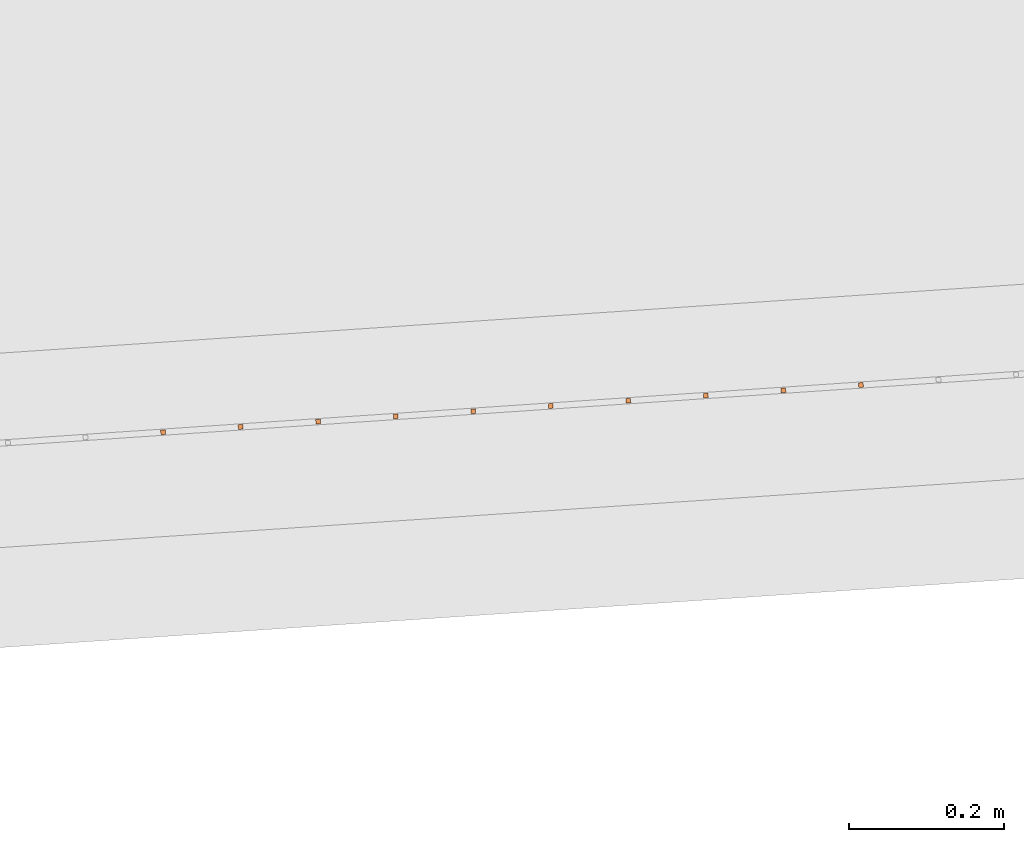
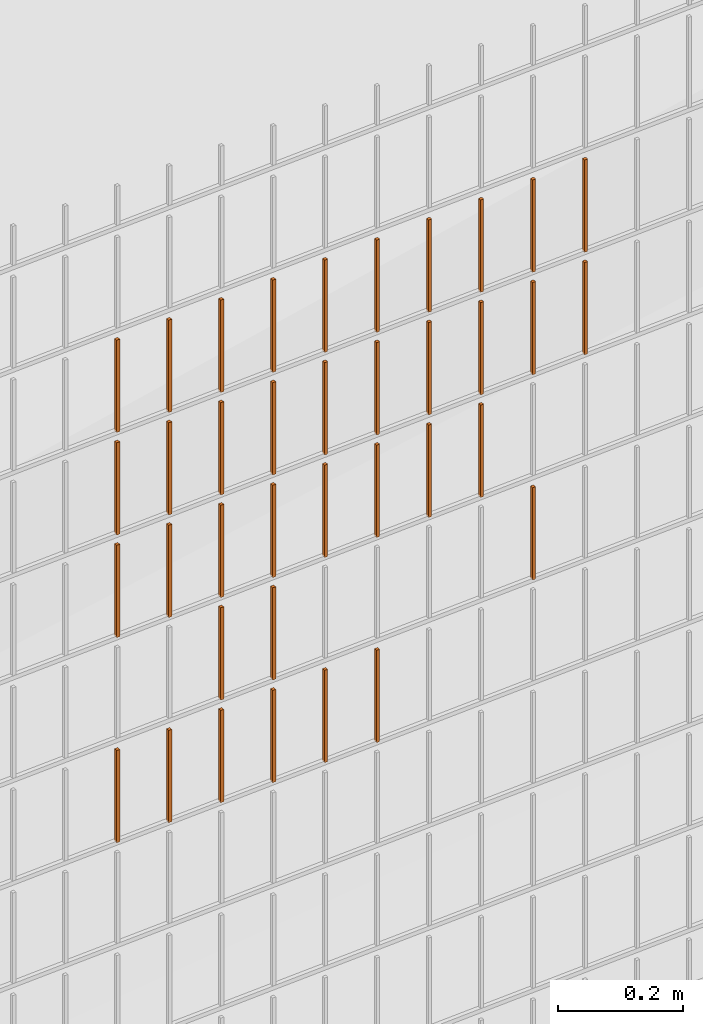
# One storey, part 101 of 1809: 37 proxies, 1 element without a shape of its own.
"""IFC2X3 building model written with IfcOpenShell, lengths in millimetres."""

from ifc_helpers import new_model, entity, si_unit, converted_unit, derived_unit, money_unit, direction, frame, origin_with_axes, place, context, subcontext, project, spatial, faceted_brep, source, transform, mapped, material, type_object, element, aggregate, save


model = new_model("IFC2X3")

# Units and contexts
model_context = context("Model", 3, precision=0.01, world=origin_with_axes(), true_north=direction((0.0, 1.0)))
body_context = subcontext(model_context, "Body", "Model", "MODEL_VIEW")
ifc_project = project(units=[si_unit("LENGTHUNIT", "METRE", prefix="MILLI"), si_unit("AREAUNIT", "SQUARE_METRE"), si_unit("VOLUMEUNIT", "CUBIC_METRE"), converted_unit("PLANEANGLEUNIT", "DEGREE", entity("IfcPlaneAngleMeasure", 0.0174532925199), si_unit("PLANEANGLEUNIT", "RADIAN"), dimensions=[0, 0, 0, 0, 0, 0, 0]), si_unit("SOLIDANGLEUNIT", "STERADIAN"), money_unit("EUR"), converted_unit("TIMEUNIT", "Year", entity("IfcTimeMeasure", 31556926.0), si_unit("TIMEUNIT", "SECOND"), dimensions=[0, 0, 1, 0, 0, 0, 0]), si_unit("MASSUNIT", "GRAM", prefix="KILO"), si_unit("THERMODYNAMICTEMPERATUREUNIT", "DEGREE_CELSIUS"), si_unit("LUMINOUSINTENSITYUNIT", "LUMEN"), si_unit("ENERGYUNIT", "JOULE", prefix="MEGA"), derived_unit("THERMALCONDUCTANCEUNIT", [(si_unit("POWERUNIT", "WATT"), 1), (si_unit("LENGTHUNIT", "METRE"), -1), (si_unit("THERMODYNAMICTEMPERATUREUNIT", "KELVIN"), -1)]), derived_unit("SPECIFICHEATCAPACITYUNIT", [(si_unit("ENERGYUNIT", "JOULE"), 1), (si_unit("MASSUNIT", "GRAM", prefix="KILO"), -1), (si_unit("THERMODYNAMICTEMPERATUREUNIT", "KELVIN"), -1)]), derived_unit("MASSDENSITYUNIT", [(si_unit("MASSUNIT", "GRAM", prefix="KILO"), 1), (si_unit("VOLUMEUNIT", "CUBIC_METRE"), -1)])], contexts=[model_context])

# Site, building, storey
site_placement = place(None, origin_with_axes())
site = spatial("IfcSite", under=ifc_project, at=site_placement, Name="Politse- ja Piirivalveameti ning Päästeameti ühishoone", CompositionType="ELEMENT")
building_placement = place(site_placement, origin_with_axes())
building = spatial("IfcBuilding", under=site, at=building_placement, Name="Politse- ja Piirivalveameti ning Päästeameti ühishoone", CompositionType="ELEMENT")
storey_placement = place(building_placement, origin_with_axes())
storey = spatial("IfcBuildingStorey", under=building, at=storey_placement, Name="Esimene korrus", CompositionType="ELEMENT", Elevation=0.0)

# Proxies
building_element_proxy_type_1 = type_object("IfcBuildingElementProxyType", Name="Railing Type", PredefinedType="NOTDEFINED")
proxy_1_placement = place(storey_placement, frame((89252.001212, -29183.4766571, 203.661247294), z_axis=(0.0, 0.0, 1.0), x_axis=(1.0, 0.0, 0.0)))
proxy_1 = element("IfcBuildingElementProxy", 1, at=proxy_1_placement, inside=storey, type_object=building_element_proxy_type_1, Name="PIIRDEAED")
ifc_material = material(Name="ET-03_Raud")
building_element_proxy_type_2 = type_object("IfcBuildingElementProxyType", Name="IfcBuildingElementProxy", PredefinedType="NOTDEFINED")
shared_shape_1 = source(origin_with_axes(), body_context, "Body", "Brep", [
    faceted_brep([(3.0, 3.0, -0.000752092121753), (-3.0, 3.0, -0.000752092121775), (-3.0, 3.0, 179.99926046), (3.0, 3.0, 179.99926046), (3.0, -3.0, 0.000752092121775), (-3.0, -3.0, 0.000752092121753), (-3.0, -3.0, 180.000764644), (3.0, -3.0, 180.000764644)], [[[0, 1, 2, 3]], [[0, 4, 5, 1]], [[1, 5, 6, 2]], [[3, 2, 6, 7]], [[4, 0, 3, 7]], [[5, 4, 7, 6]]]),
])
proxy_2_placement = place(proxy_1_placement, frame((-95708.6015445, -23762.5296047, 1203.18581675), z_axis=(0.0, 0.0, 1.0), x_axis=(1.0, 0.0, 0.0)))
proxy_2 = element("IfcBuildingElementProxy", 2, at=proxy_2_placement, type_object=building_element_proxy_type_2, material=ifc_material, Name="BALUSTER - 001", context=body_context, shape_type="MappedRepresentation", body=[
    mapped(shared_shape_1, transform((0.0, 0.0, 0.0), x_axis=(-0.0673926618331, 0.997726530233, 0.0), y_axis=(-0.997726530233, -0.0673926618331, 0.0), z_axis=(0.0, 0.0, 1.0))),
])
shared_shape_2 = source(origin_with_axes(), body_context, "Body", "Brep", [
    faceted_brep([(3.0, 3.0, -0.000752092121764), (-3.0, 3.0, -0.000752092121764), (-3.0, 3.0, 179.99926046), (3.0, 3.0, 179.99926046), (3.0, -3.0, 0.000752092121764), (-3.0, -3.0, 0.000752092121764), (-3.0, -3.0, 180.000764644), (3.0, -3.0, 180.000764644)], [[[0, 1, 2, 3]], [[0, 4, 5, 1]], [[1, 5, 6, 2]], [[3, 2, 6, 7]], [[4, 0, 3, 7]], [[5, 4, 7, 6]]]),
])
proxy_3_placement = place(proxy_1_placement, frame((-95509.0562385, -23749.0510723, 1203.23595622), z_axis=(0.0, 0.0, 1.0), x_axis=(1.0, 0.0, 0.0)))
proxy_3 = element("IfcBuildingElementProxy", 3, at=proxy_3_placement, type_object=building_element_proxy_type_2, material=ifc_material, Name="BALUSTER - 001", context=body_context, shape_type="MappedRepresentation", body=[
    mapped(shared_shape_2, transform((0.0, 0.0, 0.0), x_axis=(-0.0673926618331, 0.997726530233, 0.0), y_axis=(-0.997726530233, -0.0673926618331, 0.0), z_axis=(0.0, 0.0, 1.0))),
])
shared_shape_3 = source(origin_with_axes(), body_context, "Body", "Brep", [
    faceted_brep([(3.0, 3.0, -0.000752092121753), (-3.0, 3.0, -0.000752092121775), (-3.0, 3.0, 179.99926046), (3.0, 3.0, 179.99926046), (3.0, -3.0, 0.000752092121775), (-3.0, -3.0, 0.000752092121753), (-3.0, -3.0, 180.000764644), (3.0, -3.0, 180.000764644)], [[[0, 1, 2, 3]], [[0, 4, 5, 1]], [[1, 5, 6, 2]], [[3, 2, 6, 7]], [[4, 0, 3, 7]], [[5, 4, 7, 6]]]),
])
proxy_4_placement = place(proxy_1_placement, frame((-95708.6015445, -23762.5296047, 1403.18581675), z_axis=(0.0, 0.0, 1.0), x_axis=(1.0, 0.0, 0.0)))
proxy_4 = element("IfcBuildingElementProxy", 4, at=proxy_4_placement, type_object=building_element_proxy_type_2, material=ifc_material, Name="BALUSTER - 001", context=body_context, shape_type="MappedRepresentation", body=[
    mapped(shared_shape_3, transform((0.0, 0.0, 0.0), x_axis=(-0.0673926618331, 0.997726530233, 0.0), y_axis=(-0.997726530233, -0.0673926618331, 0.0), z_axis=(0.0, 0.0, 1.0))),
])
proxy_5_placement = place(proxy_1_placement, frame((-95708.6015445, -23762.5296047, 1603.18581675), z_axis=(0.0, 0.0, 1.0), x_axis=(1.0, 0.0, 0.0)))
proxy_5 = element("IfcBuildingElementProxy", 5, at=proxy_5_placement, type_object=building_element_proxy_type_2, material=ifc_material, Name="BALUSTER - 001", context=body_context, shape_type="MappedRepresentation", body=[
    mapped(shared_shape_3, transform((0.0, 0.0, 0.0), x_axis=(-0.0673926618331, 0.997726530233, 0.0), y_axis=(-0.997726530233, -0.0673926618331, 0.0), z_axis=(0.0, 0.0, 1.0))),
])
shared_shape_4 = source(origin_with_axes(), body_context, "Body", "Brep", [
    faceted_brep([(3.0, 3.0, -0.000752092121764), (-3.0, 3.0, -0.000752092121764), (-3.0, 3.0, 179.99926046), (3.0, 3.0, 179.99926046), (3.0, -3.0, 0.000752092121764), (-3.0, -3.0, 0.000752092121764), (-3.0, -3.0, 180.000764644), (3.0, -3.0, 180.000764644)], [[[0, 1, 2, 3]], [[0, 4, 5, 1]], [[1, 5, 6, 2]], [[3, 2, 6, 7]], [[4, 0, 3, 7]], [[5, 4, 7, 6]]]),
])
proxy_6_placement = place(proxy_1_placement, frame((-95509.0562385, -23749.0510723, 1403.23595622), z_axis=(0.0, 0.0, 1.0), x_axis=(1.0, 0.0, 0.0)))
proxy_6 = element("IfcBuildingElementProxy", 6, at=proxy_6_placement, type_object=building_element_proxy_type_2, material=ifc_material, Name="BALUSTER - 001", context=body_context, shape_type="MappedRepresentation", body=[
    mapped(shared_shape_4, transform((0.0, 0.0, 0.0), x_axis=(-0.0673926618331, 0.997726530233, 0.0), y_axis=(-0.997726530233, -0.0673926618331, 0.0), z_axis=(0.0, 0.0, 1.0))),
])
proxy_7_placement = place(proxy_1_placement, frame((-95509.0562385, -23749.0510723, 1603.23595622), z_axis=(0.0, 0.0, 1.0), x_axis=(1.0, 0.0, 0.0)))
proxy_7 = element("IfcBuildingElementProxy", 7, at=proxy_7_placement, type_object=building_element_proxy_type_2, material=ifc_material, Name="BALUSTER - 001", context=body_context, shape_type="MappedRepresentation", body=[
    mapped(shared_shape_4, transform((0.0, 0.0, 0.0), x_axis=(-0.0673926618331, 0.997726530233, 0.0), y_axis=(-0.997726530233, -0.0673926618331, 0.0), z_axis=(0.0, 0.0, 1.0))),
])
shared_shape_5 = source(origin_with_axes(), body_context, "Body", "Brep", [
    faceted_brep([(3.0, 3.0, -0.000752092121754), (-3.0, 3.0, -0.000752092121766), (-3.00000000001, 3.00000000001, 179.99926046), (2.99999999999, 3.00000000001, 179.99926046), (3.0, -3.0, 0.000752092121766), (-3.0, -3.0, 0.000752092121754), (-3.00000000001, -2.99999999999, 180.000764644), (2.99999999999, -2.99999999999, 180.000764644)], [[[0, 1, 2, 3]], [[0, 4, 5, 1]], [[1, 5, 6, 2]], [[3, 2, 6, 7]], [[4, 0, 3, 7]], [[5, 4, 7, 6]]]),
])
proxy_8_placement = place(proxy_1_placement, frame((-95808.3741976, -23769.2688709, 1003.16074701), z_axis=(0.0, 0.0, 1.0), x_axis=(1.0, 0.0, 0.0)))
proxy_8 = element("IfcBuildingElementProxy", 8, at=proxy_8_placement, type_object=building_element_proxy_type_2, material=ifc_material, Name="BALUSTER - 001", context=body_context, shape_type="MappedRepresentation", body=[
    mapped(shared_shape_5, transform((0.0, 0.0, 0.0), x_axis=(-0.0673926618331, 0.997726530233, 0.0), y_axis=(-0.997726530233, -0.0673926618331, 0.0), z_axis=(0.0, 0.0, 1.0))),
])
shared_shape_6 = source(origin_with_axes(), body_context, "Body", "Brep", [
    faceted_brep([(3.0, 3.0, -0.000752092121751), (-3.0, 3.0, -0.000752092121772), (-3.0, 3.0, 179.99926046), (3.0, 3.0, 179.99926046), (3.0, -3.0, 0.000752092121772), (-3.0, -3.0, 0.000752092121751), (-3.0, -3.0, 180.000764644), (3.0, -3.0, 180.000764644)], [[[0, 1, 2, 3]], [[0, 4, 5, 1]], [[1, 5, 6, 2]], [[3, 2, 6, 7]], [[4, 0, 3, 7]], [[5, 4, 7, 6]]]),
])
proxy_9_placement = place(proxy_1_placement, frame((-95409.2835855, -23742.3118062, 1203.26102596), z_axis=(0.0, 0.0, 1.0), x_axis=(1.0, 0.0, 0.0)))
proxy_9 = element("IfcBuildingElementProxy", 9, at=proxy_9_placement, type_object=building_element_proxy_type_2, material=ifc_material, Name="BALUSTER - 001", context=body_context, shape_type="MappedRepresentation", body=[
    mapped(shared_shape_6, transform((0.0, 0.0, 0.0), x_axis=(-0.0673926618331, 0.997726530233, 0.0), y_axis=(-0.997726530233, -0.0673926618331, 0.0), z_axis=(0.0, 0.0, 1.0))),
])
shared_shape_7 = source(origin_with_axes(), body_context, "Body", "Brep", [
    faceted_brep([(3.0, 3.0, -0.000752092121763), (-3.0, 3.0, -0.000752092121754), (-3.00000000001, 3.0, 179.99926046), (2.99999999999, 3.0, 179.99926046), (3.0, -3.0, 0.000752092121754), (-3.0, -3.0, 0.000752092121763), (-3.00000000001, -3.0, 180.000764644), (2.99999999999, -3.0, 180.000764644)], [[[0, 1, 2, 3]], [[0, 4, 5, 1]], [[1, 5, 6, 2]], [[3, 2, 6, 7]], [[4, 0, 3, 7]], [[5, 4, 7, 6]]]),
])
proxy_10_placement = place(proxy_1_placement, frame((-95309.5109324, -23735.57254, 1003.2860957), z_axis=(0.0, 0.0, 1.0), x_axis=(1.0, 0.0, 0.0)))
proxy_10 = element("IfcBuildingElementProxy", 10, at=proxy_10_placement, type_object=building_element_proxy_type_2, material=ifc_material, Name="BALUSTER - 001", context=body_context, shape_type="MappedRepresentation", body=[
    mapped(shared_shape_7, transform((0.0, 0.0, 0.0), x_axis=(-0.0673926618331, 0.997726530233, 0.0), y_axis=(-0.997726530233, -0.0673926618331, 0.0), z_axis=(0.0, 0.0, 1.0))),
])
proxy_11_placement = place(proxy_1_placement, frame((-95908.1468506, -23776.0081371, 1003.13567727), z_axis=(0.0, 0.0, 1.0), x_axis=(1.0, 0.0, 0.0)))
proxy_11 = element("IfcBuildingElementProxy", 11, at=proxy_11_placement, type_object=building_element_proxy_type_2, material=ifc_material, Name="BALUSTER - 001", context=body_context, shape_type="MappedRepresentation", body=[
    mapped(shared_shape_7, transform((0.0, 0.0, 0.0), x_axis=(-0.0673926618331, 0.997726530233, 0.0), y_axis=(-0.997726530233, -0.0673926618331, 0.0), z_axis=(0.0, 0.0, 1.0))),
])
shared_shape_8 = source(origin_with_axes(), body_context, "Body", "Brep", [
    faceted_brep([(3.0, 3.0, -0.000752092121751), (-3.0, 3.0, -0.000752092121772), (-3.0, 3.0, 179.99926046), (3.0, 3.0, 179.99926046), (3.0, -3.0, 0.000752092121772), (-3.0, -3.0, 0.000752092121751), (-3.0, -3.0, 180.000764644), (3.0, -3.0, 180.000764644)], [[[0, 1, 2, 3]], [[0, 4, 5, 1]], [[1, 5, 6, 2]], [[3, 2, 6, 7]], [[4, 0, 3, 7]], [[5, 4, 7, 6]]]),
])
proxy_12_placement = place(proxy_1_placement, frame((-95409.2835855, -23742.3118062, 1403.26102596), z_axis=(0.0, 0.0, 1.0), x_axis=(1.0, 0.0, 0.0)))
proxy_12 = element("IfcBuildingElementProxy", 12, at=proxy_12_placement, type_object=building_element_proxy_type_2, material=ifc_material, Name="BALUSTER - 001", context=body_context, shape_type="MappedRepresentation", body=[
    mapped(shared_shape_8, transform((0.0, 0.0, 0.0), x_axis=(-0.0673926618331, 0.997726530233, 0.0), y_axis=(-0.997726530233, -0.0673926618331, 0.0), z_axis=(0.0, 0.0, 1.0))),
])
proxy_13_placement = place(proxy_1_placement, frame((-95409.2835855, -23742.3118062, 1603.26102596), z_axis=(0.0, 0.0, 1.0), x_axis=(1.0, 0.0, 0.0)))
proxy_13 = element("IfcBuildingElementProxy", 13, at=proxy_13_placement, type_object=building_element_proxy_type_2, material=ifc_material, Name="BALUSTER - 001", context=body_context, shape_type="MappedRepresentation", body=[
    mapped(shared_shape_8, transform((0.0, 0.0, 0.0), x_axis=(-0.0673926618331, 0.997726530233, 0.0), y_axis=(-0.997726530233, -0.0673926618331, 0.0), z_axis=(0.0, 0.0, 1.0))),
])
shared_shape_9 = source(origin_with_axes(), body_context, "Body", "Brep", [
    faceted_brep([(3.0, 3.0, -0.000752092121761), (-3.0, 3.0, -0.000752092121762), (-3.0, 3.0, 179.99926046), (3.0, 3.0, 179.99926046), (3.0, -3.0, 0.000752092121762), (-3.0, -3.0, 0.000752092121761), (-3.0, -3.0, 180.000764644), (3.0, -3.0, 180.000764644)], [[[0, 1, 2, 3]], [[0, 4, 5, 1]], [[1, 5, 6, 2]], [[3, 2, 6, 7]], [[4, 0, 3, 7]], [[5, 4, 7, 6]]]),
])
proxy_14_placement = place(proxy_1_placement, frame((-95708.6015445, -23762.5296047, 803.185816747), z_axis=(0.0, 0.0, 1.0), x_axis=(1.0, 0.0, 0.0)))
proxy_14 = element("IfcBuildingElementProxy", 14, at=proxy_14_placement, type_object=building_element_proxy_type_2, material=ifc_material, Name="BALUSTER - 001", context=body_context, shape_type="MappedRepresentation", body=[
    mapped(shared_shape_9, transform((0.0, 0.0, 0.0), x_axis=(-0.0673926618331, 0.997726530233, 0.0), y_axis=(-0.997726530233, -0.0673926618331, 0.0), z_axis=(0.0, 0.0, 1.0))),
])
proxy_15_placement = place(proxy_1_placement, frame((-96107.6921566, -23789.4866694, 803.085537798), z_axis=(0.0, 0.0, 1.0), x_axis=(1.0, 0.0, 0.0)))
proxy_15 = element("IfcBuildingElementProxy", 15, at=proxy_15_placement, type_object=building_element_proxy_type_2, material=ifc_material, Name="BALUSTER - 001", context=body_context, shape_type="MappedRepresentation", body=[
    mapped(shared_shape_9, transform((0.0, 0.0, 0.0), x_axis=(-0.0673926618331, 0.997726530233, 0.0), y_axis=(-0.997726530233, -0.0673926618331, 0.0), z_axis=(0.0, 0.0, 1.0))),
])
shared_shape_10 = source(origin_with_axes(), body_context, "Body", "Brep", [
    faceted_brep([(3.0, 3.0, -0.000752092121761), (-3.0, 3.0, -0.000752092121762), (-3.0, 3.0, 179.99926046), (3.0, 3.0, 179.99926046), (3.0, -3.0, 0.000752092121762), (-3.0, -3.0, 0.000752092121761), (-3.0, -3.0, 180.000764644), (3.0, -3.0, 180.000764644)], [[[0, 1, 2, 3]], [[0, 4, 5, 1]], [[1, 5, 6, 2]], [[3, 2, 6, 7]], [[4, 0, 3, 7]], [[5, 4, 7, 6]]]),
])
proxy_16_placement = place(proxy_1_placement, frame((-95608.8288915, -23755.7903385, 803.210886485), z_axis=(0.0, 0.0, 1.0), x_axis=(1.0, 0.0, 0.0)))
proxy_16 = element("IfcBuildingElementProxy", 16, at=proxy_16_placement, type_object=building_element_proxy_type_2, material=ifc_material, Name="BALUSTER - 001", context=body_context, shape_type="MappedRepresentation", body=[
    mapped(shared_shape_10, transform((0.0, 0.0, 0.0), x_axis=(-0.0673926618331, 0.997726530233, 0.0), y_axis=(-0.997726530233, -0.0673926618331, 0.0), z_axis=(0.0, 0.0, 1.0))),
])
shared_shape_11 = source(origin_with_axes(), body_context, "Body", "Brep", [
    faceted_brep([(3.0, 3.0, -0.000752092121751), (-3.0, 3.0, -0.000752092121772), (-3.0, 3.0, 179.99926046), (3.0, 3.0, 179.99926046), (3.0, -3.0, 0.000752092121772), (-3.0, -3.0, 0.000752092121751), (-3.0, -3.0, 180.000764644), (3.0, -3.0, 180.000764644)], [[[0, 1, 2, 3]], [[0, 4, 5, 1]], [[1, 5, 6, 2]], [[3, 2, 6, 7]], [[4, 0, 3, 7]], [[5, 4, 7, 6]]]),
])
proxy_17_placement = place(proxy_1_placement, frame((-95808.3741976, -23769.2688709, 1203.16074701), z_axis=(0.0, 0.0, 1.0), x_axis=(1.0, 0.0, 0.0)))
proxy_17 = element("IfcBuildingElementProxy", 17, at=proxy_17_placement, type_object=building_element_proxy_type_2, material=ifc_material, Name="BALUSTER - 001", context=body_context, shape_type="MappedRepresentation", body=[
    mapped(shared_shape_11, transform((0.0, 0.0, 0.0), x_axis=(-0.0673926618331, 0.997726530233, 0.0), y_axis=(-0.997726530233, -0.0673926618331, 0.0), z_axis=(0.0, 0.0, 1.0))),
])
proxy_18_placement = place(proxy_1_placement, frame((-96107.6921566, -23789.4866694, 1203.0855378), z_axis=(0.0, 0.0, 1.0), x_axis=(1.0, 0.0, 0.0)))
proxy_18 = element("IfcBuildingElementProxy", 18, at=proxy_18_placement, type_object=building_element_proxy_type_2, material=ifc_material, Name="BALUSTER - 001", context=body_context, shape_type="MappedRepresentation", body=[
    mapped(shared_shape_11, transform((0.0, 0.0, 0.0), x_axis=(-0.0673926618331, 0.997726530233, 0.0), y_axis=(-0.997726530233, -0.0673926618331, 0.0), z_axis=(0.0, 0.0, 1.0))),
])
shared_shape_12 = source(origin_with_axes(), body_context, "Body", "Brep", [
    faceted_brep([(3.0, 3.0, -0.000752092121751), (-3.0, 3.0, -0.000752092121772), (-3.0, 3.0, 179.99926046), (3.0, 3.0, 179.99926046), (3.0, -3.0, 0.000752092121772), (-3.0, -3.0, 0.000752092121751), (-3.0, -3.0, 180.000764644), (3.0, -3.0, 180.000764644)], [[[0, 1, 2, 3]], [[0, 4, 5, 1]], [[1, 5, 6, 2]], [[3, 2, 6, 7]], [[4, 0, 3, 7]], [[5, 4, 7, 6]]]),
])
proxy_19_placement = place(proxy_1_placement, frame((-95808.3741976, -23769.2688709, 1403.16074701), z_axis=(0.0, 0.0, 1.0), x_axis=(1.0, 0.0, 0.0)))
proxy_19 = element("IfcBuildingElementProxy", 19, at=proxy_19_placement, type_object=building_element_proxy_type_2, material=ifc_material, Name="BALUSTER - 001", context=body_context, shape_type="MappedRepresentation", body=[
    mapped(shared_shape_12, transform((0.0, 0.0, 0.0), x_axis=(-0.0673926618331, 0.997726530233, 0.0), y_axis=(-0.997726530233, -0.0673926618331, 0.0), z_axis=(0.0, 0.0, 1.0))),
])
proxy_20_placement = place(proxy_1_placement, frame((-96107.6921566, -23789.4866694, 1403.0855378), z_axis=(0.0, 0.0, 1.0), x_axis=(1.0, 0.0, 0.0)))
proxy_20 = element("IfcBuildingElementProxy", 20, at=proxy_20_placement, type_object=building_element_proxy_type_2, material=ifc_material, Name="BALUSTER - 001", context=body_context, shape_type="MappedRepresentation", body=[
    mapped(shared_shape_12, transform((0.0, 0.0, 0.0), x_axis=(-0.0673926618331, 0.997726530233, 0.0), y_axis=(-0.997726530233, -0.0673926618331, 0.0), z_axis=(0.0, 0.0, 1.0))),
])
proxy_21_placement = place(proxy_1_placement, frame((-95808.3741976, -23769.2688709, 1603.16074701), z_axis=(0.0, 0.0, 1.0), x_axis=(1.0, 0.0, 0.0)))
proxy_21 = element("IfcBuildingElementProxy", 21, at=proxy_21_placement, type_object=building_element_proxy_type_2, material=ifc_material, Name="BALUSTER - 001", context=body_context, shape_type="MappedRepresentation", body=[
    mapped(shared_shape_12, transform((0.0, 0.0, 0.0), x_axis=(-0.0673926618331, 0.997726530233, 0.0), y_axis=(-0.997726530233, -0.0673926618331, 0.0), z_axis=(0.0, 0.0, 1.0))),
])
proxy_22_placement = place(proxy_1_placement, frame((-96107.6921566, -23789.4866694, 1603.0855378), z_axis=(0.0, 0.0, 1.0), x_axis=(1.0, 0.0, 0.0)))
proxy_22 = element("IfcBuildingElementProxy", 22, at=proxy_22_placement, type_object=building_element_proxy_type_2, material=ifc_material, Name="BALUSTER - 001", context=body_context, shape_type="MappedRepresentation", body=[
    mapped(shared_shape_12, transform((0.0, 0.0, 0.0), x_axis=(-0.0673926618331, 0.997726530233, 0.0), y_axis=(-0.997726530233, -0.0673926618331, 0.0), z_axis=(0.0, 0.0, 1.0))),
])
shared_shape_13 = source(origin_with_axes(), body_context, "Body", "Brep", [
    faceted_brep([(3.0, 3.0, -0.000752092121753), (-3.0, 3.0, -0.000752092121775), (-3.0, 3.0, 179.99926046), (3.0, 3.0, 179.99926046), (3.0, -3.0, 0.000752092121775), (-3.0, -3.0, 0.000752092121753), (-3.0, -3.0, 180.000764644), (3.0, -3.0, 180.000764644)], [[[0, 1, 2, 3]], [[0, 4, 5, 1]], [[1, 5, 6, 2]], [[3, 2, 6, 7]], [[4, 0, 3, 7]], [[5, 4, 7, 6]]]),
])
proxy_23_placement = place(proxy_1_placement, frame((-95908.1468506, -23776.0081371, 803.135677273), z_axis=(0.0, 0.0, 1.0), x_axis=(1.0, 0.0, 0.0)))
proxy_23 = element("IfcBuildingElementProxy", 23, at=proxy_23_placement, type_object=building_element_proxy_type_2, material=ifc_material, Name="BALUSTER - 001", context=body_context, shape_type="MappedRepresentation", body=[
    mapped(shared_shape_13, transform((0.0, 0.0, 0.0), x_axis=(-0.0673926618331, 0.997726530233, 0.0), y_axis=(-0.997726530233, -0.0673926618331, 0.0), z_axis=(0.0, 0.0, 1.0))),
])
shared_shape_14 = source(origin_with_axes(), body_context, "Body", "Brep", [
    faceted_brep([(3.0, 3.0, -0.000752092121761), (-3.0, 3.0, -0.000752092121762), (-3.0, 3.0, 179.99926046), (3.0, 3.0, 179.99926046), (3.0, -3.0, 0.000752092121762), (-3.0, -3.0, 0.000752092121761), (-3.0, -3.0, 180.000764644), (3.0, -3.0, 180.000764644)], [[[0, 1, 2, 3]], [[0, 4, 5, 1]], [[1, 5, 6, 2]], [[3, 2, 6, 7]], [[4, 0, 3, 7]], [[5, 4, 7, 6]]]),
])
proxy_24_placement = place(proxy_1_placement, frame((-95608.8288915, -23755.7903385, 1203.21088648), z_axis=(0.0, 0.0, 1.0), x_axis=(1.0, 0.0, 0.0)))
proxy_24 = element("IfcBuildingElementProxy", 24, at=proxy_24_placement, type_object=building_element_proxy_type_2, material=ifc_material, Name="BALUSTER - 001", context=body_context, shape_type="MappedRepresentation", body=[
    mapped(shared_shape_14, transform((0.0, 0.0, 0.0), x_axis=(-0.0673926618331, 0.997726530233, 0.0), y_axis=(-0.997726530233, -0.0673926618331, 0.0), z_axis=(0.0, 0.0, 1.0))),
])
shared_shape_15 = source(origin_with_axes(), body_context, "Body", "Brep", [
    faceted_brep([(3.0, 3.0, -0.000752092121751), (-3.0, 3.0, -0.000752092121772), (-3.0, 3.0, 179.99926046), (3.0, 3.0, 179.99926046), (3.0, -3.0, 0.000752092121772), (-3.0, -3.0, 0.000752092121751), (-3.0, -3.0, 180.000764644), (3.0, -3.0, 180.000764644)], [[[0, 1, 2, 3]], [[0, 4, 5, 1]], [[1, 5, 6, 2]], [[3, 2, 6, 7]], [[4, 0, 3, 7]], [[5, 4, 7, 6]]]),
])
proxy_25_placement = place(proxy_1_placement, frame((-96007.9195036, -23782.7474033, 803.110607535), z_axis=(0.0, 0.0, 1.0), x_axis=(1.0, 0.0, 0.0)))
proxy_25 = element("IfcBuildingElementProxy", 25, at=proxy_25_placement, type_object=building_element_proxy_type_2, material=ifc_material, Name="BALUSTER - 001", context=body_context, shape_type="MappedRepresentation", body=[
    mapped(shared_shape_15, transform((0.0, 0.0, 0.0), x_axis=(-0.0673926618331, 0.997726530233, 0.0), y_axis=(-0.997726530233, -0.0673926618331, 0.0), z_axis=(0.0, 0.0, 1.0))),
])
shared_shape_16 = source(origin_with_axes(), body_context, "Body", "Brep", [
    faceted_brep([(3.0, 3.0, -0.000752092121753), (-3.0, 3.0, -0.000752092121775), (-3.0, 3.0, 179.99926046), (3.0, 3.0, 179.99926046), (3.0, -3.0, 0.000752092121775), (-3.0, -3.0, 0.000752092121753), (-3.0, -3.0, 180.000764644), (3.0, -3.0, 180.000764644)], [[[0, 1, 2, 3]], [[0, 4, 5, 1]], [[1, 5, 6, 2]], [[3, 2, 6, 7]], [[4, 0, 3, 7]], [[5, 4, 7, 6]]]),
])
proxy_26_placement = place(proxy_1_placement, frame((-95808.3741976, -23769.2688709, 803.16074701), z_axis=(0.0, 0.0, 1.0), x_axis=(1.0, 0.0, 0.0)))
proxy_26 = element("IfcBuildingElementProxy", 26, at=proxy_26_placement, type_object=building_element_proxy_type_2, material=ifc_material, Name="BALUSTER - 001", context=body_context, shape_type="MappedRepresentation", body=[
    mapped(shared_shape_16, transform((0.0, 0.0, 0.0), x_axis=(-0.0673926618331, 0.997726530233, 0.0), y_axis=(-0.997726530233, -0.0673926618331, 0.0), z_axis=(0.0, 0.0, 1.0))),
])
shared_shape_17 = source(origin_with_axes(), body_context, "Body", "Brep", [
    faceted_brep([(3.0, 3.0, -0.000752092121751), (-3.0, 3.0, -0.000752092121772), (-3.0, 3.0, 179.99926046), (3.0, 3.0, 179.99926046), (3.0, -3.0, 0.000752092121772), (-3.0, -3.0, 0.000752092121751), (-3.0, -3.0, 180.000764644), (3.0, -3.0, 180.000764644)], [[[0, 1, 2, 3]], [[0, 4, 5, 1]], [[1, 5, 6, 2]], [[3, 2, 6, 7]], [[4, 0, 3, 7]], [[5, 4, 7, 6]]]),
])
proxy_27_placement = place(proxy_1_placement, frame((-95908.1468506, -23776.0081371, 1203.13567727), z_axis=(0.0, 0.0, 1.0), x_axis=(1.0, 0.0, 0.0)))
proxy_27 = element("IfcBuildingElementProxy", 27, at=proxy_27_placement, type_object=building_element_proxy_type_2, material=ifc_material, Name="BALUSTER - 001", context=body_context, shape_type="MappedRepresentation", body=[
    mapped(shared_shape_17, transform((0.0, 0.0, 0.0), x_axis=(-0.0673926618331, 0.997726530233, 0.0), y_axis=(-0.997726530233, -0.0673926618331, 0.0), z_axis=(0.0, 0.0, 1.0))),
])
shared_shape_18 = source(origin_with_axes(), body_context, "Body", "Brep", [
    faceted_brep([(3.0, 3.0, -0.000752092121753), (-3.0, 3.0, -0.000752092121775), (-3.0, 3.0, 179.99926046), (3.0, 3.0, 179.99926046), (3.0, -3.0, 0.000752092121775), (-3.0, -3.0, 0.000752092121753), (-3.0, -3.0, 180.000764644), (3.0, -3.0, 180.000764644)], [[[0, 1, 2, 3]], [[0, 4, 5, 1]], [[1, 5, 6, 2]], [[3, 2, 6, 7]], [[4, 0, 3, 7]], [[5, 4, 7, 6]]]),
])
proxy_28_placement = place(proxy_1_placement, frame((-96007.9195036, -23782.7474033, 1203.11060754), z_axis=(0.0, 0.0, 1.0), x_axis=(1.0, 0.0, 0.0)))
proxy_28 = element("IfcBuildingElementProxy", 28, at=proxy_28_placement, type_object=building_element_proxy_type_2, material=ifc_material, Name="BALUSTER - 001", context=body_context, shape_type="MappedRepresentation", body=[
    mapped(shared_shape_18, transform((0.0, 0.0, 0.0), x_axis=(-0.0673926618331, 0.997726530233, 0.0), y_axis=(-0.997726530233, -0.0673926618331, 0.0), z_axis=(0.0, 0.0, 1.0))),
])
shared_shape_19 = source(origin_with_axes(), body_context, "Body", "Brep", [
    faceted_brep([(3.0, 3.0, -0.000752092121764), (-3.0, 3.0, -0.000752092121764), (-3.0, 3.0, 179.99926046), (3.0, 3.0, 179.99926046), (3.0, -3.0, 0.000752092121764), (-3.0, -3.0, 0.000752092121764), (-3.0, -3.0, 180.000764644), (3.0, -3.0, 180.000764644)], [[[0, 1, 2, 3]], [[0, 4, 5, 1]], [[1, 5, 6, 2]], [[3, 2, 6, 7]], [[4, 0, 3, 7]], [[5, 4, 7, 6]]]),
])
proxy_29_placement = place(proxy_1_placement, frame((-95209.7382794, -23728.8332738, 1403.31116543), z_axis=(0.0, 0.0, 1.0), x_axis=(1.0, 0.0, 0.0)))
proxy_29 = element("IfcBuildingElementProxy", 29, at=proxy_29_placement, type_object=building_element_proxy_type_2, material=ifc_material, Name="BALUSTER - 001", context=body_context, shape_type="MappedRepresentation", body=[
    mapped(shared_shape_19, transform((0.0, 0.0, 0.0), x_axis=(-0.0673926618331, 0.997726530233, 0.0), y_axis=(-0.997726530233, -0.0673926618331, 0.0), z_axis=(0.0, 0.0, 1.0))),
])
proxy_30_placement = place(proxy_1_placement, frame((-95209.7382794, -23728.8332738, 1603.31116543), z_axis=(0.0, 0.0, 1.0), x_axis=(1.0, 0.0, 0.0)))
proxy_30 = element("IfcBuildingElementProxy", 30, at=proxy_30_placement, type_object=building_element_proxy_type_2, material=ifc_material, Name="BALUSTER - 001", context=body_context, shape_type="MappedRepresentation", body=[
    mapped(shared_shape_19, transform((0.0, 0.0, 0.0), x_axis=(-0.0673926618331, 0.997726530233, 0.0), y_axis=(-0.997726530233, -0.0673926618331, 0.0), z_axis=(0.0, 0.0, 1.0))),
])
shared_shape_20 = source(origin_with_axes(), body_context, "Body", "Brep", [
    faceted_brep([(3.0, 3.0, -0.000752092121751), (-3.0, 3.0, -0.000752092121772), (-3.0, 3.0, 179.99926046), (3.0, 3.0, 179.99926046), (3.0, -3.0, 0.000752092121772), (-3.0, -3.0, 0.000752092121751), (-3.0, -3.0, 180.000764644), (3.0, -3.0, 180.000764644)], [[[0, 1, 2, 3]], [[0, 4, 5, 1]], [[1, 5, 6, 2]], [[3, 2, 6, 7]], [[4, 0, 3, 7]], [[5, 4, 7, 6]]]),
])
proxy_31_placement = place(proxy_1_placement, frame((-95309.5109324, -23735.57254, 1403.2860957), z_axis=(0.0, 0.0, 1.0), x_axis=(1.0, 0.0, 0.0)))
proxy_31 = element("IfcBuildingElementProxy", 31, at=proxy_31_placement, type_object=building_element_proxy_type_2, material=ifc_material, Name="BALUSTER - 001", context=body_context, shape_type="MappedRepresentation", body=[
    mapped(shared_shape_20, transform((0.0, 0.0, 0.0), x_axis=(-0.0673926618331, 0.997726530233, 0.0), y_axis=(-0.997726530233, -0.0673926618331, 0.0), z_axis=(0.0, 0.0, 1.0))),
])
proxy_32_placement = place(proxy_1_placement, frame((-95309.5109324, -23735.57254, 1603.2860957), z_axis=(0.0, 0.0, 1.0), x_axis=(1.0, 0.0, 0.0)))
proxy_32 = element("IfcBuildingElementProxy", 32, at=proxy_32_placement, type_object=building_element_proxy_type_2, material=ifc_material, Name="BALUSTER - 001", context=body_context, shape_type="MappedRepresentation", body=[
    mapped(shared_shape_20, transform((0.0, 0.0, 0.0), x_axis=(-0.0673926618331, 0.997726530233, 0.0), y_axis=(-0.997726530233, -0.0673926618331, 0.0), z_axis=(0.0, 0.0, 1.0))),
])
shared_shape_21 = source(origin_with_axes(), body_context, "Body", "Brep", [
    faceted_brep([(3.0, 3.0, -0.000752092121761), (-3.0, 3.0, -0.000752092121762), (-3.0, 3.0, 179.99926046), (3.0, 3.0, 179.99926046), (3.0, -3.0, 0.000752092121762), (-3.0, -3.0, 0.000752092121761), (-3.0, -3.0, 180.000764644), (3.0, -3.0, 180.000764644)], [[[0, 1, 2, 3]], [[0, 4, 5, 1]], [[1, 5, 6, 2]], [[3, 2, 6, 7]], [[4, 0, 3, 7]], [[5, 4, 7, 6]]]),
])
proxy_33_placement = place(proxy_1_placement, frame((-95608.8288915, -23755.7903385, 1403.21088648), z_axis=(0.0, 0.0, 1.0), x_axis=(1.0, 0.0, 0.0)))
proxy_33 = element("IfcBuildingElementProxy", 33, at=proxy_33_placement, type_object=building_element_proxy_type_2, material=ifc_material, Name="BALUSTER - 001", context=body_context, shape_type="MappedRepresentation", body=[
    mapped(shared_shape_21, transform((0.0, 0.0, 0.0), x_axis=(-0.0673926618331, 0.997726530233, 0.0), y_axis=(-0.997726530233, -0.0673926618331, 0.0), z_axis=(0.0, 0.0, 1.0))),
])
proxy_34_placement = place(proxy_1_placement, frame((-95608.8288915, -23755.7903385, 1603.21088648), z_axis=(0.0, 0.0, 1.0), x_axis=(1.0, 0.0, 0.0)))
proxy_34 = element("IfcBuildingElementProxy", 34, at=proxy_34_placement, type_object=building_element_proxy_type_2, material=ifc_material, Name="BALUSTER - 001", context=body_context, shape_type="MappedRepresentation", body=[
    mapped(shared_shape_21, transform((0.0, 0.0, 0.0), x_axis=(-0.0673926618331, 0.997726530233, 0.0), y_axis=(-0.997726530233, -0.0673926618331, 0.0), z_axis=(0.0, 0.0, 1.0))),
])
shared_shape_22 = source(origin_with_axes(), body_context, "Body", "Brep", [
    faceted_brep([(3.0, 3.0, -0.000752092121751), (-3.0, 3.0, -0.000752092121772), (-3.0, 3.0, 179.99926046), (3.0, 3.0, 179.99926046), (3.0, -3.0, 0.000752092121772), (-3.0, -3.0, 0.000752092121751), (-3.0, -3.0, 180.000764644), (3.0, -3.0, 180.000764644)], [[[0, 1, 2, 3]], [[0, 4, 5, 1]], [[1, 5, 6, 2]], [[3, 2, 6, 7]], [[4, 0, 3, 7]], [[5, 4, 7, 6]]]),
])
proxy_35_placement = place(proxy_1_placement, frame((-95908.1468506, -23776.0081371, 1403.13567727), z_axis=(0.0, 0.0, 1.0), x_axis=(1.0, 0.0, 0.0)))
proxy_35 = element("IfcBuildingElementProxy", 35, at=proxy_35_placement, type_object=building_element_proxy_type_2, material=ifc_material, Name="BALUSTER - 001", context=body_context, shape_type="MappedRepresentation", body=[
    mapped(shared_shape_22, transform((0.0, 0.0, 0.0), x_axis=(-0.0673926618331, 0.997726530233, 0.0), y_axis=(-0.997726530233, -0.0673926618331, 0.0), z_axis=(0.0, 0.0, 1.0))),
])
proxy_36_placement = place(proxy_1_placement, frame((-95908.1468506, -23776.0081371, 1603.13567727), z_axis=(0.0, 0.0, 1.0), x_axis=(1.0, 0.0, 0.0)))
proxy_36 = element("IfcBuildingElementProxy", 36, at=proxy_36_placement, type_object=building_element_proxy_type_2, material=ifc_material, Name="BALUSTER - 001", context=body_context, shape_type="MappedRepresentation", body=[
    mapped(shared_shape_22, transform((0.0, 0.0, 0.0), x_axis=(-0.0673926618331, 0.997726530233, 0.0), y_axis=(-0.997726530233, -0.0673926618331, 0.0), z_axis=(0.0, 0.0, 1.0))),
])
shared_shape_23 = source(origin_with_axes(), body_context, "Body", "Brep", [
    faceted_brep([(3.0, 3.0, -0.000752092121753), (-3.0, 3.0, -0.000752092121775), (-3.0, 3.0, 179.99926046), (3.0, 3.0, 179.99926046), (3.0, -3.0, 0.000752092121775), (-3.0, -3.0, 0.000752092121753), (-3.0, -3.0, 180.000764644), (3.0, -3.0, 180.000764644)], [[[0, 1, 2, 3]], [[0, 4, 5, 1]], [[1, 5, 6, 2]], [[3, 2, 6, 7]], [[4, 0, 3, 7]], [[5, 4, 7, 6]]]),
])
proxy_37_placement = place(proxy_1_placement, frame((-96007.9195036, -23782.7474033, 1403.11060754), z_axis=(0.0, 0.0, 1.0), x_axis=(1.0, 0.0, 0.0)))
proxy_37 = element("IfcBuildingElementProxy", 37, at=proxy_37_placement, type_object=building_element_proxy_type_2, material=ifc_material, Name="BALUSTER - 001", context=body_context, shape_type="MappedRepresentation", body=[
    mapped(shared_shape_23, transform((0.0, 0.0, 0.0), x_axis=(-0.0673926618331, 0.997726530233, 0.0), y_axis=(-0.997726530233, -0.0673926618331, 0.0), z_axis=(0.0, 0.0, 1.0))),
])
proxy_38_placement = place(proxy_1_placement, frame((-96007.9195036, -23782.7474033, 1603.11060754), z_axis=(0.0, 0.0, 1.0), x_axis=(1.0, 0.0, 0.0)))
proxy_38 = element("IfcBuildingElementProxy", 38, at=proxy_38_placement, type_object=building_element_proxy_type_2, material=ifc_material, Name="BALUSTER - 001", context=body_context, shape_type="MappedRepresentation", body=[
    mapped(shared_shape_23, transform((0.0, 0.0, 0.0), x_axis=(-0.0673926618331, 0.997726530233, 0.0), y_axis=(-0.997726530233, -0.0673926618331, 0.0), z_axis=(0.0, 0.0, 1.0))),
])
aggregate(proxy_1, [proxy_16, proxy_14, proxy_26, proxy_23, proxy_25, proxy_15, proxy_10, proxy_8, proxy_11, proxy_9, proxy_3, proxy_24, proxy_2, proxy_17, proxy_27, proxy_28, proxy_18, proxy_29, proxy_31, proxy_12, proxy_6, proxy_33, proxy_4, proxy_19, proxy_35, proxy_37, proxy_20, proxy_30, proxy_32, proxy_13, proxy_7, proxy_34, proxy_5, proxy_21, proxy_36, proxy_38, proxy_22])

save(model, "model.ifc")
